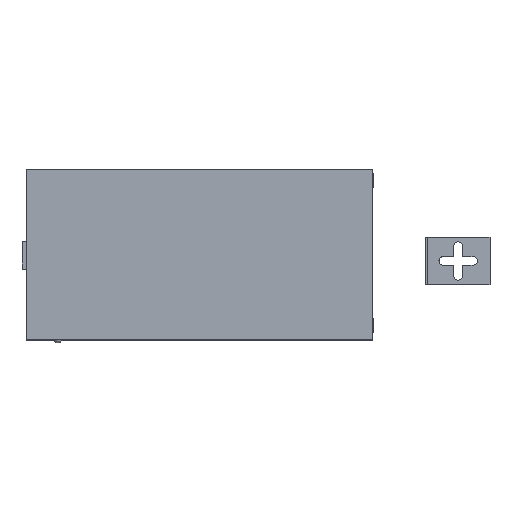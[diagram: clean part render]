
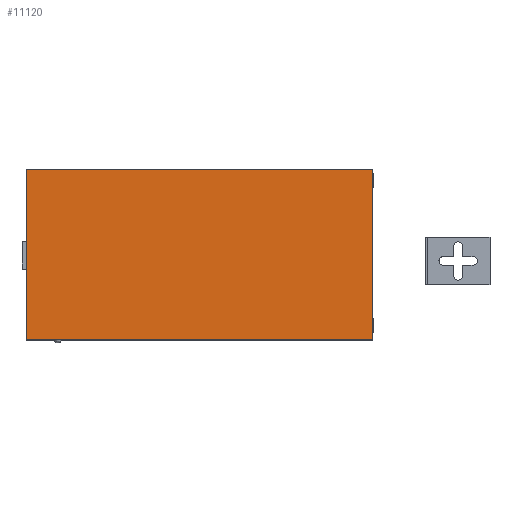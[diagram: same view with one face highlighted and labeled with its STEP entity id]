
A CAD part, top view. The second image highlights one B-rep face of the part: STEP entity #11120.
In plain terms, the highlighted planar face has unit normal (0, 0, 1).
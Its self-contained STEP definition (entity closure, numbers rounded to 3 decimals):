
#7062 = PLANE('',#7063);
#7063 = AXIS2_PLACEMENT_3D('',#7064,#7065,#7066);
#7064 = CARTESIAN_POINT('',(139.,0.,0.));
#7065 = DIRECTION('',(1.,0.,0.));
#7066 = DIRECTION('',(0.,0.,1.));
#8227 = PLANE('',#8228);
#8228 = AXIS2_PLACEMENT_3D('',#8229,#8230,#8231);
#8229 = CARTESIAN_POINT('',(69.5,68.6,12.5));
#8230 = DIRECTION('',(0.,1.,0.));
#8231 = DIRECTION('',(0.,0.,1.));
#9249 = VERTEX_POINT('',#9250);
#9250 = CARTESIAN_POINT('',(139.,0.,25.));
#9264 = PLANE('',#9265);
#9265 = AXIS2_PLACEMENT_3D('',#9266,#9267,#9268);
#9266 = CARTESIAN_POINT('',(0.,0.,0.));
#9267 = DIRECTION('',(0.,1.,0.));
#9268 = DIRECTION('',(0.,0.,1.));
#9305 = VERTEX_POINT('',#9306);
#9306 = CARTESIAN_POINT('',(139.,68.6,25.));
#9327 = EDGE_CURVE('',#9249,#9305,#9328,.T.);
#9328 = SURFACE_CURVE('',#9329,(#9333,#9340),.PCURVE_S1.);
#9329 = LINE('',#9330,#9331);
#9330 = CARTESIAN_POINT('',(139.,0.,25.));
#9331 = VECTOR('',#9332,1.);
#9332 = DIRECTION('',(0.,1.,0.));
#9333 = PCURVE('',#7062,#9334);
#9334 = DEFINITIONAL_REPRESENTATION('',(#9335),#9339);
#9335 = LINE('',#9336,#9337);
#9336 = CARTESIAN_POINT('',(25.,0.));
#9337 = VECTOR('',#9338,1.);
#9338 = DIRECTION('',(0.,-1.));
#9339 = ( GEOMETRIC_REPRESENTATION_CONTEXT(2) 
PARAMETRIC_REPRESENTATION_CONTEXT() REPRESENTATION_CONTEXT('2D SPACE',''
  ) );
#9340 = PCURVE('',#9341,#9346);
#9341 = PLANE('',#9342);
#9342 = AXIS2_PLACEMENT_3D('',#9343,#9344,#9345);
#9343 = CARTESIAN_POINT('',(0.,0.,25.));
#9344 = DIRECTION('',(0.,0.,1.));
#9345 = DIRECTION('',(1.,0.,0.));
#9346 = DEFINITIONAL_REPRESENTATION('',(#9347),#9351);
#9347 = LINE('',#9348,#9349);
#9348 = CARTESIAN_POINT('',(139.,0.));
#9349 = VECTOR('',#9350,1.);
#9350 = DIRECTION('',(0.,1.));
#9351 = ( GEOMETRIC_REPRESENTATION_CONTEXT(2) 
PARAMETRIC_REPRESENTATION_CONTEXT() REPRESENTATION_CONTEXT('2D SPACE',''
  ) );
#9508 = VERTEX_POINT('',#9509);
#9509 = CARTESIAN_POINT('',(0.,0.,25.));
#9523 = PLANE('',#9524);
#9524 = AXIS2_PLACEMENT_3D('',#9525,#9526,#9527);
#9525 = CARTESIAN_POINT('',(0.,0.,0.));
#9526 = DIRECTION('',(1.,0.,0.));
#9527 = DIRECTION('',(0.,0.,1.));
#9535 = EDGE_CURVE('',#9508,#9249,#9536,.T.);
#9536 = SURFACE_CURVE('',#9537,(#9541,#9548),.PCURVE_S1.);
#9537 = LINE('',#9538,#9539);
#9538 = CARTESIAN_POINT('',(0.,0.,25.));
#9539 = VECTOR('',#9540,1.);
#9540 = DIRECTION('',(1.,0.,0.));
#9541 = PCURVE('',#9264,#9542);
#9542 = DEFINITIONAL_REPRESENTATION('',(#9543),#9547);
#9543 = LINE('',#9544,#9545);
#9544 = CARTESIAN_POINT('',(25.,0.));
#9545 = VECTOR('',#9546,1.);
#9546 = DIRECTION('',(0.,1.));
#9547 = ( GEOMETRIC_REPRESENTATION_CONTEXT(2) 
PARAMETRIC_REPRESENTATION_CONTEXT() REPRESENTATION_CONTEXT('2D SPACE',''
  ) );
#9548 = PCURVE('',#9341,#9549);
#9549 = DEFINITIONAL_REPRESENTATION('',(#9550),#9554);
#9550 = LINE('',#9551,#9552);
#9551 = CARTESIAN_POINT('',(0.,0.));
#9552 = VECTOR('',#9553,1.);
#9553 = DIRECTION('',(1.,0.));
#9554 = ( GEOMETRIC_REPRESENTATION_CONTEXT(2) 
PARAMETRIC_REPRESENTATION_CONTEXT() REPRESENTATION_CONTEXT('2D SPACE',''
  ) );
#10610 = VERTEX_POINT('',#10611);
#10611 = CARTESIAN_POINT('',(0.,68.6,25.));
#10632 = EDGE_CURVE('',#9508,#10610,#10633,.T.);
#10633 = SURFACE_CURVE('',#10634,(#10638,#10645),.PCURVE_S1.);
#10634 = LINE('',#10635,#10636);
#10635 = CARTESIAN_POINT('',(0.,0.,25.));
#10636 = VECTOR('',#10637,1.);
#10637 = DIRECTION('',(0.,1.,0.));
#10638 = PCURVE('',#9523,#10639);
#10639 = DEFINITIONAL_REPRESENTATION('',(#10640),#10644);
#10640 = LINE('',#10641,#10642);
#10641 = CARTESIAN_POINT('',(25.,0.));
#10642 = VECTOR('',#10643,1.);
#10643 = DIRECTION('',(0.,-1.));
#10644 = ( GEOMETRIC_REPRESENTATION_CONTEXT(2) 
PARAMETRIC_REPRESENTATION_CONTEXT() REPRESENTATION_CONTEXT('2D SPACE',''
  ) );
#10645 = PCURVE('',#9341,#10646);
#10646 = DEFINITIONAL_REPRESENTATION('',(#10647),#10651);
#10647 = LINE('',#10648,#10649);
#10648 = CARTESIAN_POINT('',(0.,0.));
#10649 = VECTOR('',#10650,1.);
#10650 = DIRECTION('',(0.,1.));
#10651 = ( GEOMETRIC_REPRESENTATION_CONTEXT(2) 
PARAMETRIC_REPRESENTATION_CONTEXT() REPRESENTATION_CONTEXT('2D SPACE',''
  ) );
#11120 = ADVANCED_FACE('',(#11121),#9341,.T.);
#11121 = FACE_BOUND('',#11122,.T.);
#11122 = EDGE_LOOP('',(#11123,#11124,#11125,#11126));
#11123 = ORIENTED_EDGE('',*,*,#10632,.F.);
#11124 = ORIENTED_EDGE('',*,*,#9535,.T.);
#11125 = ORIENTED_EDGE('',*,*,#9327,.T.);
#11126 = ORIENTED_EDGE('',*,*,#11127,.F.);
#11127 = EDGE_CURVE('',#10610,#9305,#11128,.T.);
#11128 = SURFACE_CURVE('',#11129,(#11133,#11140),.PCURVE_S1.);
#11129 = LINE('',#11130,#11131);
#11130 = CARTESIAN_POINT('',(0.,68.6,25.));
#11131 = VECTOR('',#11132,1.);
#11132 = DIRECTION('',(1.,0.,0.));
#11133 = PCURVE('',#9341,#11134);
#11134 = DEFINITIONAL_REPRESENTATION('',(#11135),#11139);
#11135 = LINE('',#11136,#11137);
#11136 = CARTESIAN_POINT('',(0.,68.6));
#11137 = VECTOR('',#11138,1.);
#11138 = DIRECTION('',(1.,0.));
#11139 = ( GEOMETRIC_REPRESENTATION_CONTEXT(2) 
PARAMETRIC_REPRESENTATION_CONTEXT() REPRESENTATION_CONTEXT('2D SPACE',''
  ) );
#11140 = PCURVE('',#8227,#11141);
#11141 = DEFINITIONAL_REPRESENTATION('',(#11142),#11146);
#11142 = LINE('',#11143,#11144);
#11143 = CARTESIAN_POINT('',(12.5,-69.5));
#11144 = VECTOR('',#11145,1.);
#11145 = DIRECTION('',(0.,1.));
#11146 = ( GEOMETRIC_REPRESENTATION_CONTEXT(2) 
PARAMETRIC_REPRESENTATION_CONTEXT() REPRESENTATION_CONTEXT('2D SPACE',''
  ) );
